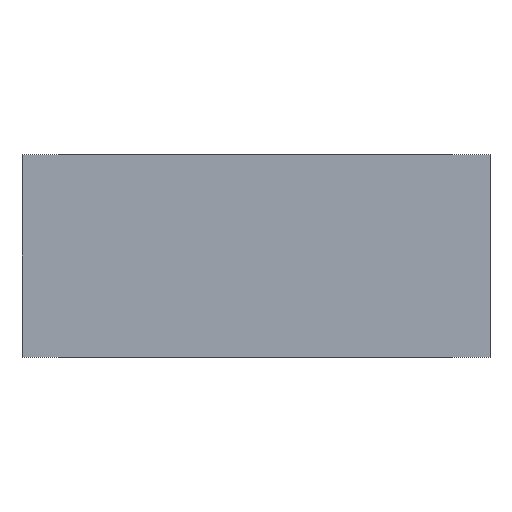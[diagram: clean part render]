
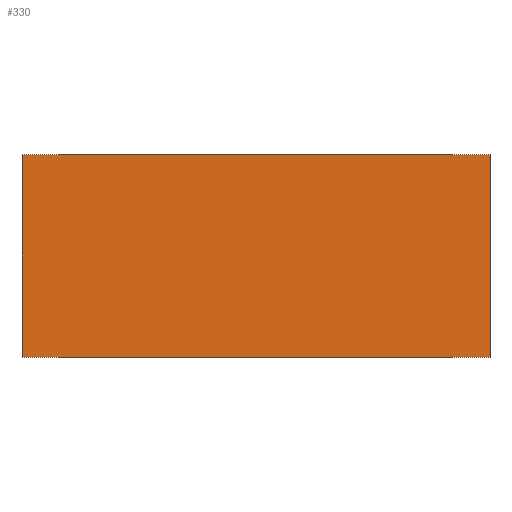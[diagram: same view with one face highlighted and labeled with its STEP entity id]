
A CAD part, front view. The second image highlights one B-rep face of the part: STEP entity #330.
In plain terms, the highlighted planar face has unit normal (0, -1, 0).
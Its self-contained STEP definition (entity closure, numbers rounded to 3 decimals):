
#5 = EDGE_CURVE ( 'NONE', #538, #553, #224, .T. ) ;
#10 = AXIS2_PLACEMENT_3D ( 'NONE', #434, #427, #426 ) ;
#11 = EDGE_CURVE ( 'NONE', #550, #529, #213, .T. ) ;
#36 = EDGE_CURVE ( 'NONE', #550, #538, #175, .T. ) ;
#39 = EDGE_CURVE ( 'NONE', #529, #553, #169, .T. ) ;
#116 = FACE_OUTER_BOUND ( 'NONE', #233, .T. ) ;
#168 = VECTOR ( 'NONE', #536, 1000. ) ;
#169 = LINE ( 'NONE', #537, #168 ) ;
#174 = VECTOR ( 'NONE', #545, 1000. ) ;
#175 = LINE ( 'NONE', #546, #174 ) ;
#212 = VECTOR ( 'NONE', #422, 1000. ) ;
#213 = LINE ( 'NONE', #425, #212 ) ;
#219 = VECTOR ( 'NONE', #450, 1000. ) ;
#224 = LINE ( 'NONE', #466, #219 ) ;
#233 = EDGE_LOOP ( 'NONE', ( #301, #302, #303, #304 ) ) ;
#301 = ORIENTED_EDGE ( 'NONE', *, *, #39, .T. ) ;
#302 = ORIENTED_EDGE ( 'NONE', *, *, #5, .F. ) ;
#303 = ORIENTED_EDGE ( 'NONE', *, *, #36, .F. ) ;
#304 = ORIENTED_EDGE ( 'NONE', *, *, #11, .T. ) ;
#330 = ADVANCED_FACE ( 'NONE', ( #116 ), #438, .F. ) ;
#381 = CARTESIAN_POINT ( 'NONE',  ( 75., 0., 0. ) ) ;
#382 = CARTESIAN_POINT ( 'NONE',  ( -75., 0., 65. ) ) ;
#387 = CARTESIAN_POINT ( 'NONE',  ( 75., 0., 65. ) ) ;
#390 = CARTESIAN_POINT ( 'NONE',  ( -75., 0., 0. ) ) ;
#422 = DIRECTION ( 'NONE',  ( 0., 0., -1. ) ) ;
#425 = CARTESIAN_POINT ( 'NONE',  ( -75., 0., 65. ) ) ;
#426 = DIRECTION ( 'NONE',  ( -1., 0., 0. ) ) ;
#427 = DIRECTION ( 'NONE',  ( 0., 1., 0. ) ) ;
#434 = CARTESIAN_POINT ( 'NONE',  ( -75., 0., 65. ) ) ;
#438 = PLANE ( 'NONE',  #10 ) ;
#450 = DIRECTION ( 'NONE',  ( 0., 0., -1. ) ) ;
#466 = CARTESIAN_POINT ( 'NONE',  ( 75., 0., 65. ) ) ;
#529 = VERTEX_POINT ( 'NONE', #390 ) ;
#536 = DIRECTION ( 'NONE',  ( 1., 0., 0. ) ) ;
#537 = CARTESIAN_POINT ( 'NONE',  ( -75., 0., 0. ) ) ;
#538 = VERTEX_POINT ( 'NONE', #387 ) ;
#545 = DIRECTION ( 'NONE',  ( 1., 0., 0. ) ) ;
#546 = CARTESIAN_POINT ( 'NONE',  ( -75., 0., 65. ) ) ;
#550 = VERTEX_POINT ( 'NONE', #382 ) ;
#553 = VERTEX_POINT ( 'NONE', #381 ) ;
